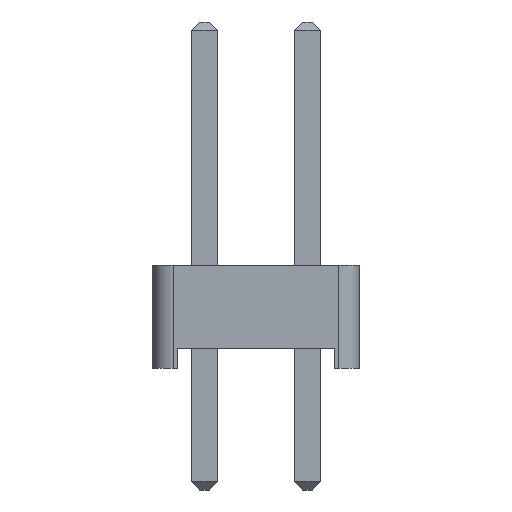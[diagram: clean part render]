
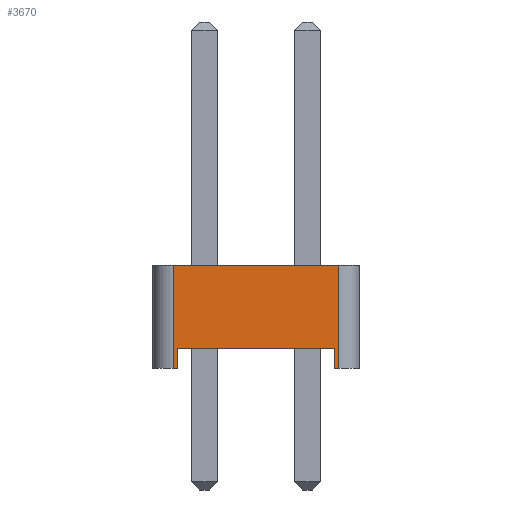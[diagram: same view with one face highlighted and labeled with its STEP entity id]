
A CAD part, left-side view. The second image highlights one B-rep face of the part: STEP entity #3670.
In plain terms, the highlighted planar face has unit normal (-1, 0, 0).
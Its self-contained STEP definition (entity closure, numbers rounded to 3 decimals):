
#3410 = VERTEX_POINT('',#3411);
#3411 = CARTESIAN_POINT('',(-1.27,2.04,0.));
#3419 = PLANE('',#3420);
#3420 = AXIS2_PLACEMENT_3D('',#3421,#3422,#3423);
#3421 = CARTESIAN_POINT('',(0.,0.,0.));
#3422 = DIRECTION('',(-0.,-0.,-1.));
#3423 = DIRECTION('',(-1.,0.,0.));
#3435 = CYLINDRICAL_SURFACE('',#3436,0.5);
#3436 = AXIS2_PLACEMENT_3D('',#3437,#3438,#3439);
#3437 = CARTESIAN_POINT('',(-0.77,2.04,0.));
#3438 = DIRECTION('',(0.,0.,1.));
#3439 = DIRECTION('',(0.,1.,0.));
#3537 = VERTEX_POINT('',#3538);
#3538 = CARTESIAN_POINT('',(-1.27,1.94,0.));
#3552 = PLANE('',#3553);
#3553 = AXIS2_PLACEMENT_3D('',#3554,#3555,#3556);
#3554 = CARTESIAN_POINT('',(1.27,1.94,0.));
#3555 = DIRECTION('',(0.,-1.,0.));
#3556 = DIRECTION('',(-1.,0.,0.));
#3564 = EDGE_CURVE('',#3537,#3410,#3565,.T.);
#3565 = SURFACE_CURVE('',#3566,(#3570,#3577),.PCURVE_S1.);
#3566 = LINE('',#3567,#3568);
#3567 = CARTESIAN_POINT('',(-1.27,-2.54,0.));
#3568 = VECTOR('',#3569,1.);
#3569 = DIRECTION('',(0.,1.,0.));
#3570 = PCURVE('',#3419,#3571);
#3571 = DEFINITIONAL_REPRESENTATION('',(#3572),#3576);
#3572 = LINE('',#3573,#3574);
#3573 = CARTESIAN_POINT('',(1.27,-2.54));
#3574 = VECTOR('',#3575,1.);
#3575 = DIRECTION('',(0.,1.));
#3576 = ( GEOMETRIC_REPRESENTATION_CONTEXT(2) 
PARAMETRIC_REPRESENTATION_CONTEXT() REPRESENTATION_CONTEXT('2D SPACE',''
  ) );
#3577 = PCURVE('',#3578,#3583);
#3578 = PLANE('',#3579);
#3579 = AXIS2_PLACEMENT_3D('',#3580,#3581,#3582);
#3580 = CARTESIAN_POINT('',(-1.27,-2.54,0.));
#3581 = DIRECTION('',(-1.,0.,0.));
#3582 = DIRECTION('',(0.,1.,0.));
#3583 = DEFINITIONAL_REPRESENTATION('',(#3584),#3588);
#3584 = LINE('',#3585,#3586);
#3585 = CARTESIAN_POINT('',(0.,0.));
#3586 = VECTOR('',#3587,1.);
#3587 = DIRECTION('',(1.,0.));
#3588 = ( GEOMETRIC_REPRESENTATION_CONTEXT(2) 
PARAMETRIC_REPRESENTATION_CONTEXT() REPRESENTATION_CONTEXT('2D SPACE',''
  ) );
#3594 = EDGE_CURVE('',#3410,#3595,#3597,.T.);
#3595 = VERTEX_POINT('',#3596);
#3596 = CARTESIAN_POINT('',(-1.27,2.04,2.54));
#3597 = SURFACE_CURVE('',#3598,(#3602,#3609),.PCURVE_S1.);
#3598 = LINE('',#3599,#3600);
#3599 = CARTESIAN_POINT('',(-1.27,2.04,0.));
#3600 = VECTOR('',#3601,1.);
#3601 = DIRECTION('',(0.,0.,1.));
#3602 = PCURVE('',#3435,#3603);
#3603 = DEFINITIONAL_REPRESENTATION('',(#3604),#3608);
#3604 = LINE('',#3605,#3606);
#3605 = CARTESIAN_POINT('',(1.571,0.));
#3606 = VECTOR('',#3607,1.);
#3607 = DIRECTION('',(0.,1.));
#3608 = ( GEOMETRIC_REPRESENTATION_CONTEXT(2) 
PARAMETRIC_REPRESENTATION_CONTEXT() REPRESENTATION_CONTEXT('2D SPACE',''
  ) );
#3609 = PCURVE('',#3578,#3610);
#3610 = DEFINITIONAL_REPRESENTATION('',(#3611),#3615);
#3611 = LINE('',#3612,#3613);
#3612 = CARTESIAN_POINT('',(4.58,0.));
#3613 = VECTOR('',#3614,1.);
#3614 = DIRECTION('',(0.,-1.));
#3615 = ( GEOMETRIC_REPRESENTATION_CONTEXT(2) 
PARAMETRIC_REPRESENTATION_CONTEXT() REPRESENTATION_CONTEXT('2D SPACE',''
  ) );
#3634 = PLANE('',#3635);
#3635 = AXIS2_PLACEMENT_3D('',#3636,#3637,#3638);
#3636 = CARTESIAN_POINT('',(0.,0.,2.54));
#3637 = DIRECTION('',(-0.,-0.,-1.));
#3638 = DIRECTION('',(-1.,0.,0.));
#3670 = ADVANCED_FACE('',(#3671),#3578,.T.);
#3671 = FACE_BOUND('',#3672,.T.);
#3672 = EDGE_LOOP('',(#3673,#3703,#3731,#3752,#3753,#3754,#3777,#3805));
#3673 = ORIENTED_EDGE('',*,*,#3674,.F.);
#3674 = EDGE_CURVE('',#3675,#3677,#3679,.T.);
#3675 = VERTEX_POINT('',#3676);
#3676 = CARTESIAN_POINT('',(-1.27,-2.04,0.));
#3677 = VERTEX_POINT('',#3678);
#3678 = CARTESIAN_POINT('',(-1.27,-1.94,0.));
#3679 = SURFACE_CURVE('',#3680,(#3684,#3691),.PCURVE_S1.);
#3680 = LINE('',#3681,#3682);
#3681 = CARTESIAN_POINT('',(-1.27,-2.54,0.));
#3682 = VECTOR('',#3683,1.);
#3683 = DIRECTION('',(0.,1.,0.));
#3684 = PCURVE('',#3578,#3685);
#3685 = DEFINITIONAL_REPRESENTATION('',(#3686),#3690);
#3686 = LINE('',#3687,#3688);
#3687 = CARTESIAN_POINT('',(0.,0.));
#3688 = VECTOR('',#3689,1.);
#3689 = DIRECTION('',(1.,0.));
#3690 = ( GEOMETRIC_REPRESENTATION_CONTEXT(2) 
PARAMETRIC_REPRESENTATION_CONTEXT() REPRESENTATION_CONTEXT('2D SPACE',''
  ) );
#3691 = PCURVE('',#3692,#3697);
#3692 = PLANE('',#3693);
#3693 = AXIS2_PLACEMENT_3D('',#3694,#3695,#3696);
#3694 = CARTESIAN_POINT('',(0.,0.,0.));
#3695 = DIRECTION('',(-0.,-0.,-1.));
#3696 = DIRECTION('',(-1.,0.,0.));
#3697 = DEFINITIONAL_REPRESENTATION('',(#3698),#3702);
#3698 = LINE('',#3699,#3700);
#3699 = CARTESIAN_POINT('',(1.27,-2.54));
#3700 = VECTOR('',#3701,1.);
#3701 = DIRECTION('',(0.,1.));
#3702 = ( GEOMETRIC_REPRESENTATION_CONTEXT(2) 
PARAMETRIC_REPRESENTATION_CONTEXT() REPRESENTATION_CONTEXT('2D SPACE',''
  ) );
#3703 = ORIENTED_EDGE('',*,*,#3704,.T.);
#3704 = EDGE_CURVE('',#3675,#3705,#3707,.T.);
#3705 = VERTEX_POINT('',#3706);
#3706 = CARTESIAN_POINT('',(-1.27,-2.04,2.54));
#3707 = SURFACE_CURVE('',#3708,(#3712,#3719),.PCURVE_S1.);
#3708 = LINE('',#3709,#3710);
#3709 = CARTESIAN_POINT('',(-1.27,-2.04,0.));
#3710 = VECTOR('',#3711,1.);
#3711 = DIRECTION('',(0.,0.,1.));
#3712 = PCURVE('',#3578,#3713);
#3713 = DEFINITIONAL_REPRESENTATION('',(#3714),#3718);
#3714 = LINE('',#3715,#3716);
#3715 = CARTESIAN_POINT('',(0.5,0.));
#3716 = VECTOR('',#3717,1.);
#3717 = DIRECTION('',(0.,-1.));
#3718 = ( GEOMETRIC_REPRESENTATION_CONTEXT(2) 
PARAMETRIC_REPRESENTATION_CONTEXT() REPRESENTATION_CONTEXT('2D SPACE',''
  ) );
#3719 = PCURVE('',#3720,#3725);
#3720 = CYLINDRICAL_SURFACE('',#3721,0.5);
#3721 = AXIS2_PLACEMENT_3D('',#3722,#3723,#3724);
#3722 = CARTESIAN_POINT('',(-0.77,-2.04,0.));
#3723 = DIRECTION('',(0.,0.,1.));
#3724 = DIRECTION('',(0.,-1.,0.));
#3725 = DEFINITIONAL_REPRESENTATION('',(#3726),#3730);
#3726 = LINE('',#3727,#3728);
#3727 = CARTESIAN_POINT('',(-1.571,0.));
#3728 = VECTOR('',#3729,1.);
#3729 = DIRECTION('',(-0.,1.));
#3730 = ( GEOMETRIC_REPRESENTATION_CONTEXT(2) 
PARAMETRIC_REPRESENTATION_CONTEXT() REPRESENTATION_CONTEXT('2D SPACE',''
  ) );
#3731 = ORIENTED_EDGE('',*,*,#3732,.T.);
#3732 = EDGE_CURVE('',#3705,#3595,#3733,.T.);
#3733 = SURFACE_CURVE('',#3734,(#3738,#3745),.PCURVE_S1.);
#3734 = LINE('',#3735,#3736);
#3735 = CARTESIAN_POINT('',(-1.27,-2.54,2.54));
#3736 = VECTOR('',#3737,1.);
#3737 = DIRECTION('',(0.,1.,0.));
#3738 = PCURVE('',#3578,#3739);
#3739 = DEFINITIONAL_REPRESENTATION('',(#3740),#3744);
#3740 = LINE('',#3741,#3742);
#3741 = CARTESIAN_POINT('',(0.,-2.54));
#3742 = VECTOR('',#3743,1.);
#3743 = DIRECTION('',(1.,0.));
#3744 = ( GEOMETRIC_REPRESENTATION_CONTEXT(2) 
PARAMETRIC_REPRESENTATION_CONTEXT() REPRESENTATION_CONTEXT('2D SPACE',''
  ) );
#3745 = PCURVE('',#3634,#3746);
#3746 = DEFINITIONAL_REPRESENTATION('',(#3747),#3751);
#3747 = LINE('',#3748,#3749);
#3748 = CARTESIAN_POINT('',(1.27,-2.54));
#3749 = VECTOR('',#3750,1.);
#3750 = DIRECTION('',(0.,1.));
#3751 = ( GEOMETRIC_REPRESENTATION_CONTEXT(2) 
PARAMETRIC_REPRESENTATION_CONTEXT() REPRESENTATION_CONTEXT('2D SPACE',''
  ) );
#3752 = ORIENTED_EDGE('',*,*,#3594,.F.);
#3753 = ORIENTED_EDGE('',*,*,#3564,.F.);
#3754 = ORIENTED_EDGE('',*,*,#3755,.T.);
#3755 = EDGE_CURVE('',#3537,#3756,#3758,.T.);
#3756 = VERTEX_POINT('',#3757);
#3757 = CARTESIAN_POINT('',(-1.27,1.94,0.5));
#3758 = SURFACE_CURVE('',#3759,(#3763,#3770),.PCURVE_S1.);
#3759 = LINE('',#3760,#3761);
#3760 = CARTESIAN_POINT('',(-1.27,1.94,0.));
#3761 = VECTOR('',#3762,1.);
#3762 = DIRECTION('',(0.,0.,1.));
#3763 = PCURVE('',#3578,#3764);
#3764 = DEFINITIONAL_REPRESENTATION('',(#3765),#3769);
#3765 = LINE('',#3766,#3767);
#3766 = CARTESIAN_POINT('',(4.48,0.));
#3767 = VECTOR('',#3768,1.);
#3768 = DIRECTION('',(0.,-1.));
#3769 = ( GEOMETRIC_REPRESENTATION_CONTEXT(2) 
PARAMETRIC_REPRESENTATION_CONTEXT() REPRESENTATION_CONTEXT('2D SPACE',''
  ) );
#3770 = PCURVE('',#3552,#3771);
#3771 = DEFINITIONAL_REPRESENTATION('',(#3772),#3776);
#3772 = LINE('',#3773,#3774);
#3773 = CARTESIAN_POINT('',(2.54,0.));
#3774 = VECTOR('',#3775,1.);
#3775 = DIRECTION('',(0.,-1.));
#3776 = ( GEOMETRIC_REPRESENTATION_CONTEXT(2) 
PARAMETRIC_REPRESENTATION_CONTEXT() REPRESENTATION_CONTEXT('2D SPACE',''
  ) );
#3777 = ORIENTED_EDGE('',*,*,#3778,.T.);
#3778 = EDGE_CURVE('',#3756,#3779,#3781,.T.);
#3779 = VERTEX_POINT('',#3780);
#3780 = CARTESIAN_POINT('',(-1.27,-1.94,0.5));
#3781 = SURFACE_CURVE('',#3782,(#3786,#3793),.PCURVE_S1.);
#3782 = LINE('',#3783,#3784);
#3783 = CARTESIAN_POINT('',(-1.27,1.94,0.5));
#3784 = VECTOR('',#3785,1.);
#3785 = DIRECTION('',(0.,-1.,0.));
#3786 = PCURVE('',#3578,#3787);
#3787 = DEFINITIONAL_REPRESENTATION('',(#3788),#3792);
#3788 = LINE('',#3789,#3790);
#3789 = CARTESIAN_POINT('',(4.48,-0.5));
#3790 = VECTOR('',#3791,1.);
#3791 = DIRECTION('',(-1.,0.));
#3792 = ( GEOMETRIC_REPRESENTATION_CONTEXT(2) 
PARAMETRIC_REPRESENTATION_CONTEXT() REPRESENTATION_CONTEXT('2D SPACE',''
  ) );
#3793 = PCURVE('',#3794,#3799);
#3794 = PLANE('',#3795);
#3795 = AXIS2_PLACEMENT_3D('',#3796,#3797,#3798);
#3796 = CARTESIAN_POINT('',(0.,0.,0.5));
#3797 = DIRECTION('',(0.,0.,1.));
#3798 = DIRECTION('',(1.,0.,0.));
#3799 = DEFINITIONAL_REPRESENTATION('',(#3800),#3804);
#3800 = LINE('',#3801,#3802);
#3801 = CARTESIAN_POINT('',(-1.27,1.94));
#3802 = VECTOR('',#3803,1.);
#3803 = DIRECTION('',(0.,-1.));
#3804 = ( GEOMETRIC_REPRESENTATION_CONTEXT(2) 
PARAMETRIC_REPRESENTATION_CONTEXT() REPRESENTATION_CONTEXT('2D SPACE',''
  ) );
#3805 = ORIENTED_EDGE('',*,*,#3806,.F.);
#3806 = EDGE_CURVE('',#3677,#3779,#3807,.T.);
#3807 = SURFACE_CURVE('',#3808,(#3812,#3819),.PCURVE_S1.);
#3808 = LINE('',#3809,#3810);
#3809 = CARTESIAN_POINT('',(-1.27,-1.94,0.));
#3810 = VECTOR('',#3811,1.);
#3811 = DIRECTION('',(0.,0.,1.));
#3812 = PCURVE('',#3578,#3813);
#3813 = DEFINITIONAL_REPRESENTATION('',(#3814),#3818);
#3814 = LINE('',#3815,#3816);
#3815 = CARTESIAN_POINT('',(0.6,0.));
#3816 = VECTOR('',#3817,1.);
#3817 = DIRECTION('',(0.,-1.));
#3818 = ( GEOMETRIC_REPRESENTATION_CONTEXT(2) 
PARAMETRIC_REPRESENTATION_CONTEXT() REPRESENTATION_CONTEXT('2D SPACE',''
  ) );
#3819 = PCURVE('',#3820,#3825);
#3820 = PLANE('',#3821);
#3821 = AXIS2_PLACEMENT_3D('',#3822,#3823,#3824);
#3822 = CARTESIAN_POINT('',(-1.27,-1.94,0.));
#3823 = DIRECTION('',(0.,1.,0.));
#3824 = DIRECTION('',(1.,0.,0.));
#3825 = DEFINITIONAL_REPRESENTATION('',(#3826),#3830);
#3826 = LINE('',#3827,#3828);
#3827 = CARTESIAN_POINT('',(0.,0.));
#3828 = VECTOR('',#3829,1.);
#3829 = DIRECTION('',(0.,-1.));
#3830 = ( GEOMETRIC_REPRESENTATION_CONTEXT(2) 
PARAMETRIC_REPRESENTATION_CONTEXT() REPRESENTATION_CONTEXT('2D SPACE',''
  ) );
